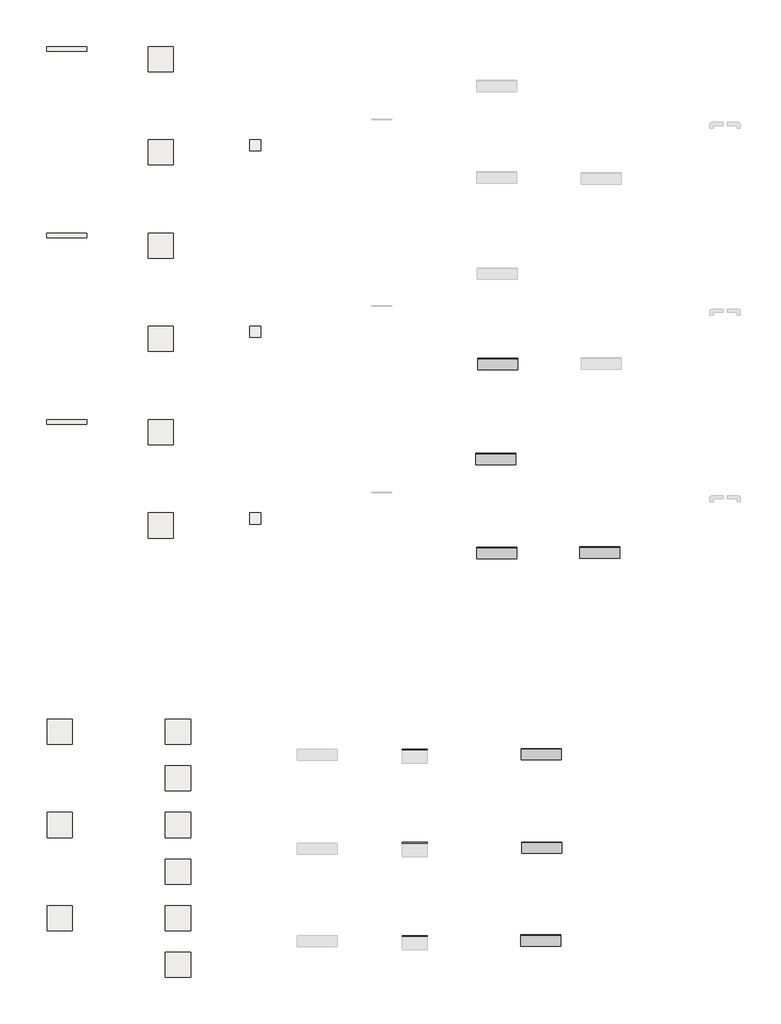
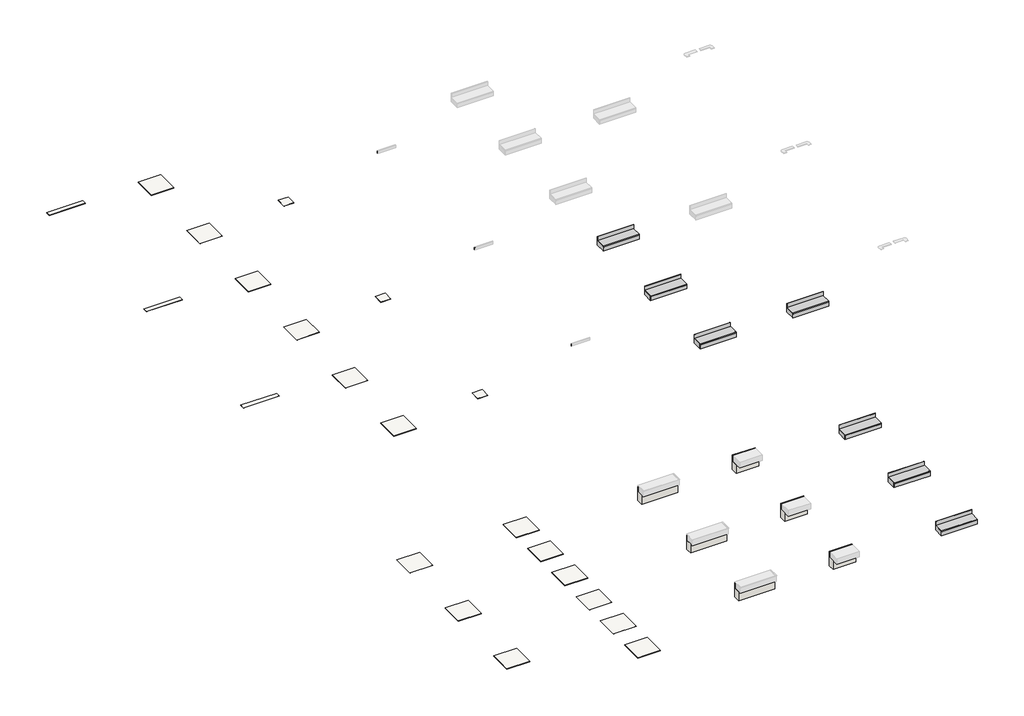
# One storey, part 1 of 2: 21 slabs, 9 walls, 7 stair flights.
"""IFC4 building model written with IfcOpenShell, lengths in millimetres."""

from ifc_helpers import new_model, si_unit, frame, origin, place, context, project, spatial, polyline, outline, extrude, faceted_brep, element, save

model = new_model("IFC4")

# Units and contexts
model_context = context("Model", 3, world=origin())
ifc_project = project(units=[si_unit("LENGTHUNIT", "METRE", prefix="MILLI")], contexts=[model_context])

# Site, building, storey
site = spatial("IfcSite", under=ifc_project)
building = spatial("IfcBuilding", under=site)
storey = spatial("IfcBuildingStorey", under=building, Name="EXAGRES_MILAN Series_Catalogue", Elevation=5000.0)

# Slabs
placement = place(None, origin())
element("IfcSlab", 1, ObjectType="Exagres_Milan_Arena_Base_14,5x120_R9_Rect", at=placement, inside=storey, context=model_context, shape_type="SweptSolid", body=[
    extrude(outline(polyline([(-28.1781102, 784.4826442), (-28.1781102, 637.4826442), (-1230.1781102, 637.4826442), (-1230.1781102, 784.4826442), (-28.1781102, 784.4826442)])), frame((0.0, 0.0, 4989.0), z_axis=(0.0, 0.0, 1.0), x_axis=(1.0, 0.0, 0.0)), (0.0, 0.0, 1.0), 11.0),
])
element("IfcSlab", 2, ObjectType="Exagres_Milan_Gris_Base_14,5x120_R9_Rect", at=placement, inside=storey, context=model_context, shape_type="SweptSolid", body=[
    extrude(outline(polyline([(-28.1781102, -4815.5173558), (-28.1781102, -4962.5173558), (-1230.1781102, -4962.5173558), (-1230.1781102, -4815.5173558), (-28.1781102, -4815.5173558)])), frame((0.0, 0.0, 4989.0), z_axis=(0.0, 0.0, 1.0), x_axis=(1.0, 0.0, 0.0)), (0.0, 0.0, 1.0), 11.0),
])
element("IfcSlab", 3, ObjectType="Exagres_Milan_Marengo_Base_14,5x120_R9_Rect", at=placement, inside=storey, context=model_context, shape_type="SweptSolid", body=[
    extrude(outline(polyline([(-28.1781102, -10415.5173558), (-28.1781102, -10562.5173558), (-1230.1781102, -10562.5173558), (-1230.1781102, -10415.5173558), (-28.1781102, -10415.5173558)])), frame((0.0, 0.0, 4989.0), z_axis=(0.0, 0.0, 1.0), x_axis=(1.0, 0.0, 0.0)), (0.0, 0.0, 1.0), 11.0),
])
element("IfcSlab", 4, ObjectType="Exagres_Milan_Arena_Base_75x75_R9_Rect", at=placement, inside=storey, context=model_context, shape_type="SweptSolid", body=[
    extrude(outline(polyline([(2571.8218898, 784.4826442), (2571.8218898, 32.4826442), (1819.8218898, 32.4826442), (1819.8218898, 784.4826442), (2571.8218898, 784.4826442)])), frame((0.0, 0.0, 4989.0), z_axis=(0.0, 0.0, 1.0), x_axis=(1.0, 0.0, 0.0)), (0.0, 0.0, 1.0), 11.0),
])
element("IfcSlab", 5, ObjectType="Exagres_Milan_Arena_Base_75x75_R12+C_Rect", at=placement, inside=storey, context=model_context, shape_type="SweptSolid", body=[
    extrude(outline(polyline([(2574.8218898, -2015.5173558), (2574.8218898, -2770.5173558), (1819.8218898, -2770.5173558), (1819.8218898, -2015.5173558), (2574.8218898, -2015.5173558)])), frame((0.0, 0.0, 4989.0), z_axis=(0.0, 0.0, 1.0), x_axis=(1.0, 0.0, 0.0)), (0.0, 0.0, 1.0), 11.0),
])
element("IfcSlab", 6, ObjectType="Exagres_Milan_Gris_Base_75x75_R9_Rect", at=placement, inside=storey, context=model_context, shape_type="SweptSolid", body=[
    extrude(outline(polyline([(2571.8218898, -4815.5173558), (2571.8218898, -5567.5173558), (1819.8218898, -5567.5173558), (1819.8218898, -4815.5173558), (2571.8218898, -4815.5173558)])), frame((0.0, 0.0, 4989.0), z_axis=(0.0, 0.0, 1.0), x_axis=(1.0, 0.0, 0.0)), (0.0, 0.0, 1.0), 11.0),
])
element("IfcSlab", 7, ObjectType="Exagres_Milan_Gris_Base_75x75_R12+C_Rect", at=placement, inside=storey, context=model_context, shape_type="SweptSolid", body=[
    extrude(outline(polyline([(2574.8218898, -7615.5173558), (2574.8218898, -8370.5173558), (1819.8218898, -8370.5173558), (1819.8218898, -7615.5173558), (2574.8218898, -7615.5173558)])), frame((0.0, 0.0, 4989.0), z_axis=(0.0, 0.0, 1.0), x_axis=(1.0, 0.0, 0.0)), (0.0, 0.0, 1.0), 11.0),
])
element("IfcSlab", 8, ObjectType="Exagres_Milan_Marengo_Base_75x75_R9_Rect", at=placement, inside=storey, context=model_context, shape_type="SweptSolid", body=[
    extrude(outline(polyline([(2571.8218898, -10415.5173558), (2571.8218898, -11167.5173558), (1819.8218898, -11167.5173558), (1819.8218898, -10415.5173558), (2571.8218898, -10415.5173558)])), frame((0.0, 0.0, 4989.0), z_axis=(0.0, 0.0, 1.0), x_axis=(1.0, 0.0, 0.0)), (0.0, 0.0, 1.0), 11.0),
])
element("IfcSlab", 9, ObjectType="Exagres_Milan_Marengo_Base_75x75_R12+C_Rect", at=placement, inside=storey, context=model_context, shape_type="SweptSolid", body=[
    extrude(outline(polyline([(2574.8218898, -13215.5173558), (2574.8218898, -13970.5173558), (1819.8218898, -13970.5173558), (1819.8218898, -13215.5173558), (2574.8218898, -13215.5173558)])), frame((0.0, 0.0, 4989.0), z_axis=(0.0, 0.0, 1.0), x_axis=(1.0, 0.0, 0.0)), (0.0, 0.0, 1.0), 11.0),
])
element("IfcSlab", 10, ObjectType="Exagres_Milan_Arena_Base_33x33_R12+C", at=placement, inside=storey, context=model_context, shape_type="SweptSolid", body=[
    extrude(outline(polyline([(5204.8218898, -2015.5173558), (5204.8218898, -2350.5173558), (4869.8218898, -2350.5173558), (4869.8218898, -2015.5173558), (5204.8218898, -2015.5173558)])), frame((0.0, 0.0, 4990.0), z_axis=(0.0, 0.0, 1.0), x_axis=(1.0, 0.0, 0.0)), (0.0, 0.0, 1.0), 10.0),
])
element("IfcSlab", 11, ObjectType="Exagres_Milan_Gris_Base_33x33_R12+C", at=placement, inside=storey, context=model_context, shape_type="SweptSolid", body=[
    extrude(outline(polyline([(5204.8218898, -7615.5173558), (5204.8218898, -7950.5173558), (4869.8218898, -7950.5173558), (4869.8218898, -7615.5173558), (5204.8218898, -7615.5173558)])), frame((0.0, 0.0, 4990.0), z_axis=(0.0, 0.0, 1.0), x_axis=(1.0, 0.0, 0.0)), (0.0, 0.0, 1.0), 10.0),
])
element("IfcSlab", 12, ObjectType="Exagres_Milan_Marengo_Base_33x33_R12+C", at=placement, inside=storey, context=model_context, shape_type="SweptSolid", body=[
    extrude(outline(polyline([(5204.8218898, -13215.5173558), (5204.8218898, -13550.5173558), (4869.8218898, -13550.5173558), (4869.8218898, -13215.5173558), (5204.8218898, -13215.5173558)])), frame((0.0, 0.0, 4990.0), z_axis=(0.0, 0.0, 1.0), x_axis=(1.0, 0.0, 0.0)), (0.0, 0.0, 1.0), 10.0),
])
element("IfcSlab", 13, ObjectType="Exagres_Milan_Arena_Pool_75x75_R9_Rect", at=placement, inside=storey, context=model_context, shape_type="SweptSolid", body=[
    extrude(outline(polyline([(-457.155725, -19408.4497575), (-457.155725, -20163.4497575), (-1212.155725, -20163.4497575), (-1212.155725, -19408.4497575), (-457.155725, -19408.4497575)])), frame((0.0, 0.0, 4989.0), z_axis=(0.0, 0.0, 1.0), x_axis=(1.0, 0.0, 0.0)), (0.0, 0.0, 1.0), 11.0),
])
element("IfcSlab", 14, ObjectType="Exagres_Milan_Gris_Pool_75x75_R9_Rect", at=placement, inside=storey, context=model_context, shape_type="SweptSolid", body=[
    extrude(outline(polyline([(-457.155725, -22208.4497575), (-457.155725, -22963.4497575), (-1212.155725, -22963.4497575), (-1212.155725, -22208.4497575), (-457.155725, -22208.4497575)])), frame((0.0, 0.0, 4989.0), z_axis=(0.0, 0.0, 1.0), x_axis=(1.0, 0.0, 0.0)), (0.0, 0.0, 1.0), 11.0),
])
element("IfcSlab", 15, ObjectType="Exagres_Milan_Marengo_Pool_75x75_R9_Rect", at=placement, inside=storey, context=model_context, shape_type="SweptSolid", body=[
    extrude(outline(polyline([(-457.155725, -25008.4497575), (-457.155725, -25763.4497575), (-1212.155725, -25763.4497575), (-1212.155725, -25008.4497575), (-457.155725, -25008.4497575)])), frame((0.0, 0.0, 4989.0), z_axis=(0.0, 0.0, 1.0), x_axis=(1.0, 0.0, 0.0)), (0.0, 0.0, 1.0), 11.0),
])
element("IfcSlab", 16, ObjectType="Exagres_Milan_Arena_Pool_75x75_R12+C_Rect", at=placement, inside=storey, context=model_context, shape_type="SweptSolid", body=[
    extrude(outline(polyline([(3092.844275, -20808.4497575), (3092.844275, -21563.4497575), (2337.844275, -21563.4497575), (2337.844275, -20808.4497575), (3092.844275, -20808.4497575)])), frame((0.0, 0.0, 4989.0), z_axis=(0.0, 0.0, 1.0), x_axis=(1.0, 0.0, 0.0)), (0.0, 0.0, 1.0), 11.0),
])
element("IfcSlab", 17, ObjectType="Exagres_Milan_Gris_Pool_75x75_R12+C_Rect", at=placement, inside=storey, context=model_context, shape_type="SweptSolid", body=[
    extrude(outline(polyline([(3092.844275, -23608.4497575), (3092.844275, -24363.4497575), (2337.844275, -24363.4497575), (2337.844275, -23608.4497575), (3092.844275, -23608.4497575)])), frame((0.0, 0.0, 4989.0), z_axis=(0.0, 0.0, 1.0), x_axis=(1.0, 0.0, 0.0)), (0.0, 0.0, 1.0), 11.0),
])
element("IfcSlab", 18, ObjectType="Exagres_Milan_Marengo_Pool_75x75_R12+C_Rect", at=placement, inside=storey, context=model_context, shape_type="SweptSolid", body=[
    extrude(outline(polyline([(3092.844275, -26408.4497575), (3092.844275, -27163.4497575), (2337.844275, -27163.4497575), (2337.844275, -26408.4497575), (3092.844275, -26408.4497575)])), frame((0.0, 0.0, 4989.0), z_axis=(0.0, 0.0, 1.0), x_axis=(1.0, 0.0, 0.0)), (0.0, 0.0, 1.0), 11.0),
])
element("IfcSlab", 19, ObjectType="Exagres_Milan_Arena_Pool_75x75_R9_Rect", at=placement, inside=storey, context=model_context, shape_type="SweptSolid", body=[
    extrude(outline(polyline([(3092.844275, -19408.4497575), (3092.844275, -20163.4497575), (2337.844275, -20163.4497575), (2337.844275, -19408.4497575), (3092.844275, -19408.4497575)])), frame((0.0, 0.0, 4989.0), z_axis=(0.0, 0.0, 1.0), x_axis=(1.0, 0.0, 0.0)), (0.0, 0.0, 1.0), 11.0),
])
element("IfcSlab", 20, ObjectType="Exagres_Milan_Gris_Pool_75x75_R9_Rect", at=placement, inside=storey, context=model_context, shape_type="SweptSolid", body=[
    extrude(outline(polyline([(3092.844275, -22208.4497575), (3092.844275, -22963.4497575), (2337.844275, -22963.4497575), (2337.844275, -22208.4497575), (3092.844275, -22208.4497575)])), frame((0.0, 0.0, 4989.0), z_axis=(0.0, 0.0, 1.0), x_axis=(1.0, 0.0, 0.0)), (0.0, 0.0, 1.0), 11.0),
])
element("IfcSlab", 21, ObjectType="Exagres_Milan_Marengo_Pool_75x75_R9_Rect", at=placement, inside=storey, context=model_context, shape_type="SweptSolid", body=[
    extrude(outline(polyline([(3092.844275, -25008.4497575), (3092.844275, -25763.4497575), (2337.844275, -25763.4497575), (2337.844275, -25008.4497575), (3092.844275, -25008.4497575)])), frame((0.0, 0.0, 4989.0), z_axis=(0.0, 0.0, 1.0), x_axis=(1.0, 0.0, 0.0)), (0.0, 0.0, 1.0), 11.0),
])

# Stair flights
element("IfcStairFlight", 22, ObjectType="EXAGRES_Straight - Milán Gris R11+C", at=placement, inside=storey, context=model_context, shape_type="SweptSolid", body=[
    extrude(outline(polyline([(11721.0701188, -8908.3577504), (11721.0701188, -8578.3577504), (12921.0701188, -8578.3577504), (12921.0701188, -8908.3577504), (11721.0701188, -8908.3577504)])), frame((0.0, 0.0, 5000.0), z_axis=(0.0, 0.0, 1.0), x_axis=(1.0, 0.0, 0.0)), (0.0, 0.0, 1.0), 151.6666667),
    extrude(outline(polyline([(-8578.3577504, 5151.6666667), (-8903.4482015, 5151.6666667), (-8903.4482015, 5154.6666667), (-8908.3577504, 5154.6666667), (-8908.3577504, 5147.6666667), (-8909.3577504, 5147.6666667), (-8909.3577504, 5141.6666667), (-8908.3577504, 5141.6666667), (-8908.3577504, 5133.6666667), (-8921.3577504, 5133.6666667), (-8921.3577504, 5166.6666667), (-8578.3577504, 5166.6666667), (-8578.3577504, 5151.6666667)])), frame((11721.0701188, 0.0, 0.0), z_axis=(1.0, 0.0, 0.0), x_axis=(0.0, 1.0, 0.0)), (0.0, 0.0, 1.0), 1200.0),
    extrude(outline(polyline([(12921.0701188, -8908.3577504), (12921.0701188, -8921.3577504), (11721.0701188, -8921.3577504), (11721.0701188, -8908.3577504), (12921.0701188, -8908.3577504)])), frame((0.0, 0.0, 5000.0), z_axis=(0.0, 0.0, 1.0), x_axis=(1.0, 0.0, 0.0)), (0.0, 0.0, 1.0), 133.6666667),
    extrude(outline(polyline([(12921.0701188, -8578.3577504), (12921.0701188, -8591.3577504), (11721.0701188, -8591.3577504), (11721.0701188, -8578.3577504), (12921.0701188, -8578.3577504)])), frame((0.0, 0.0, 5166.6666667), z_axis=(0.0, 0.0, 1.0), x_axis=(1.0, 0.0, 0.0)), (0.0, 0.0, 1.0), 133.6666667),
])
element("IfcStairFlight", 23, ObjectType="EXAGRES_Straight - Milán Marengo R11+C", at=placement, inside=storey, context=model_context, shape_type="SweptSolid", body=[
    extrude(outline(polyline([(11680.537934, -14574.5839781), (11680.537934, -14244.5839781), (12880.537934, -14244.5839781), (12880.537934, -14574.5839781), (11680.537934, -14574.5839781)])), frame((0.0, 0.0, 5000.0), z_axis=(0.0, 0.0, 1.0), x_axis=(1.0, 0.0, 0.0)), (0.0, 0.0, 1.0), 151.6666667),
    extrude(outline(polyline([(-14244.5839781, 5151.6666667), (-14569.6744292, 5151.6666667), (-14569.6744292, 5154.6666667), (-14574.5839781, 5154.6666667), (-14574.5839781, 5147.6666667), (-14575.5839781, 5147.6666667), (-14575.5839781, 5141.6666667), (-14574.5839781, 5141.6666667), (-14574.5839781, 5133.6666667), (-14587.5839781, 5133.6666667), (-14587.5839781, 5166.6666667), (-14244.5839781, 5166.6666667), (-14244.5839781, 5151.6666667)])), frame((11680.537934, 0.0, 0.0), z_axis=(1.0, 0.0, 0.0), x_axis=(0.0, 1.0, 0.0)), (0.0, 0.0, 1.0), 1200.0),
    extrude(outline(polyline([(12880.537934, -14574.5839781), (12880.537934, -14587.5839781), (11680.537934, -14587.5839781), (11680.537934, -14574.5839781), (12880.537934, -14574.5839781)])), frame((0.0, 0.0, 5000.0), z_axis=(0.0, 0.0, 1.0), x_axis=(1.0, 0.0, 0.0)), (0.0, 0.0, 1.0), 133.6666667),
    extrude(outline(polyline([(12880.537934, -14244.5839781), (12880.537934, -14257.5839781), (11680.537934, -14257.5839781), (11680.537934, -14244.5839781), (12880.537934, -14244.5839781)])), frame((0.0, 0.0, 5166.6666667), z_axis=(0.0, 0.0, 1.0), x_axis=(1.0, 0.0, 0.0)), (0.0, 0.0, 1.0), 133.6666667),
])
element("IfcStairFlight", 24, ObjectType="EXAGRES_Straight - Milán Marengo R9", at=placement, inside=storey, context=model_context, shape_type="SweptSolid", body=[
    extrude(outline(polyline([(11653.0707994, -11754.5173558), (11653.0707994, -11424.5173558), (12853.0707994, -11424.5173558), (12853.0707994, -11754.5173558), (11653.0707994, -11754.5173558)])), frame((0.0, 0.0, 5000.0), z_axis=(0.0, 0.0, 1.0), x_axis=(1.0, 0.0, 0.0)), (0.0, 0.0, 1.0), 151.6666667),
    extrude(outline(polyline([(-11424.5173558, 5151.6666667), (-11749.6078069, 5151.6666667), (-11749.6078069, 5154.6666667), (-11754.5173558, 5154.6666667), (-11754.5173558, 5147.6666667), (-11755.5173558, 5147.6666667), (-11755.5173558, 5141.6666667), (-11754.5173558, 5141.6666667), (-11754.5173558, 5133.6666667), (-11767.5173558, 5133.6666667), (-11767.5173558, 5166.6666667), (-11424.5173558, 5166.6666667), (-11424.5173558, 5151.6666667)])), frame((11653.0707994, 0.0, 0.0), z_axis=(1.0, 0.0, 0.0), x_axis=(0.0, 1.0, 0.0)), (0.0, 0.0, 1.0), 1200.0),
    extrude(outline(polyline([(12853.0707994, -11754.5173558), (12853.0707994, -11767.5173558), (11653.0707994, -11767.5173558), (11653.0707994, -11754.5173558), (12853.0707994, -11754.5173558)])), frame((0.0, 0.0, 5000.0), z_axis=(0.0, 0.0, 1.0), x_axis=(1.0, 0.0, 0.0)), (0.0, 0.0, 1.0), 133.6666667),
    extrude(outline(polyline([(12853.0707994, -11424.5173558), (12853.0707994, -11437.5173558), (11653.0707994, -11437.5173558), (11653.0707994, -11424.5173558), (12853.0707994, -11424.5173558)])), frame((0.0, 0.0, 5166.6666667), z_axis=(0.0, 0.0, 1.0), x_axis=(1.0, 0.0, 0.0)), (0.0, 0.0, 1.0), 133.6666667),
])
element("IfcStairFlight", 25, ObjectType="EXAGRES_Straight_33x33 - Milán Marengo R11+C", at=placement, inside=storey, context=model_context, shape_type="SweptSolid", body=[
    extrude(outline(polyline([(14777.6650181, -14564.7282448), (14777.6650181, -14234.7282448), (15977.6650181, -14234.7282448), (15977.6650181, -14564.7282448), (14777.6650181, -14564.7282448)])), frame((0.0, 0.0, 5000.0), z_axis=(0.0, 0.0, 1.0), x_axis=(1.0, 0.0, 0.0)), (0.0, 0.0, 1.0), 151.6666667),
    extrude(outline(polyline([(-14234.7282448, 5151.6666667), (-14559.8186959, 5151.6666667), (-14559.8186959, 5154.6666667), (-14564.7282448, 5154.6666667), (-14564.7282448, 5147.6666667), (-14565.7282448, 5147.6666667), (-14565.7282448, 5141.6666667), (-14564.7282448, 5141.6666667), (-14564.7282448, 5133.6666667), (-14577.7282448, 5133.6666667), (-14577.7282448, 5166.6666667), (-14234.7282448, 5166.6666667), (-14234.7282448, 5151.6666667)])), frame((14777.6650181, 0.0, 0.0), z_axis=(1.0, 0.0, 0.0), x_axis=(0.0, 1.0, 0.0)), (0.0, 0.0, 1.0), 1200.0),
    extrude(outline(polyline([(15977.6650181, -14564.7282448), (15977.6650181, -14577.7282448), (14777.6650181, -14577.7282448), (14777.6650181, -14564.7282448), (15977.6650181, -14564.7282448)])), frame((0.0, 0.0, 5000.0), z_axis=(0.0, 0.0, 1.0), x_axis=(1.0, 0.0, 0.0)), (0.0, 0.0, 1.0), 133.6666667),
    extrude(outline(polyline([(15977.6650181, -14234.7282448), (15977.6650181, -14247.7282448), (14777.6650181, -14247.7282448), (14777.6650181, -14234.7282448), (15977.6650181, -14234.7282448)])), frame((0.0, 0.0, 5166.6666667), z_axis=(0.0, 0.0, 1.0), x_axis=(1.0, 0.0, 0.0)), (0.0, 0.0, 1.0), 133.6666667),
])
element("IfcStairFlight", 26, ObjectType="EXAGRES_Straight - Milán Arena R11+C", at=placement, inside=storey, context=model_context, shape_type="SweptSolid", body=[
    extrude(outline(polyline([(13018.7377741, -20621.625771), (13018.7377741, -20291.625771), (14218.7377741, -20291.625771), (14218.7377741, -20621.625771), (13018.7377741, -20621.625771)])), frame((0.0, 0.0, 5000.0), z_axis=(0.0, 0.0, 1.0), x_axis=(1.0, 0.0, 0.0)), (0.0, 0.0, 1.0), 153.3168317),
    extrude(outline(polyline([(-20291.625771, 5153.3168317), (-20616.7162221, 5153.3168317), (-20616.7162221, 5156.3168317), (-20621.625771, 5156.3168317), (-20621.625771, 5149.3168317), (-20622.625771, 5149.3168317), (-20622.625771, 5143.3168317), (-20621.625771, 5143.3168317), (-20621.625771, 5135.3168317), (-20634.625771, 5135.3168317), (-20634.625771, 5168.3168317), (-20291.625771, 5168.3168317), (-20291.625771, 5153.3168317)])), frame((13018.7377741, 0.0, 0.0), z_axis=(1.0, 0.0, 0.0), x_axis=(0.0, 1.0, 0.0)), (0.0, 0.0, 1.0), 1200.0),
    extrude(outline(polyline([(14218.7377741, -20621.625771), (14218.7377741, -20634.625771), (13018.7377741, -20634.625771), (13018.7377741, -20621.625771), (14218.7377741, -20621.625771)])), frame((0.0, 0.0, 5000.0), z_axis=(0.0, 0.0, 1.0), x_axis=(1.0, 0.0, 0.0)), (0.0, 0.0, 1.0), 135.3168317),
    extrude(outline(polyline([(14218.7377741, -20291.625771), (14218.7377741, -20304.625771), (13018.7377741, -20304.625771), (13018.7377741, -20291.625771), (14218.7377741, -20291.625771)])), frame((0.0, 0.0, 5168.3168317), z_axis=(0.0, 0.0, 1.0), x_axis=(1.0, 0.0, 0.0)), (0.0, 0.0, 1.0), 135.3168317),
])
element("IfcStairFlight", 27, ObjectType="EXAGRES_Straight - Milán Gris R11+C", at=placement, inside=storey, context=model_context, shape_type="SweptSolid", body=[
    extrude(outline(polyline([(13030.5286038, -23428.8241111), (13030.5286038, -23098.8241111), (14230.5286038, -23098.8241111), (14230.5286038, -23428.8241111), (13030.5286038, -23428.8241111)])), frame((0.0, 0.0, 5000.0), z_axis=(0.0, 0.0, 1.0), x_axis=(1.0, 0.0, 0.0)), (0.0, 0.0, 1.0), 153.3168317),
    extrude(outline(polyline([(-23098.8241111, 5153.3168317), (-23423.9145622, 5153.3168317), (-23423.9145622, 5156.3168317), (-23428.8241111, 5156.3168317), (-23428.8241111, 5149.3168317), (-23429.8241111, 5149.3168317), (-23429.8241111, 5143.3168317), (-23428.8241111, 5143.3168317), (-23428.8241111, 5135.3168317), (-23441.8241111, 5135.3168317), (-23441.8241111, 5168.3168317), (-23098.8241111, 5168.3168317), (-23098.8241111, 5153.3168317)])), frame((13030.5286038, 0.0, 0.0), z_axis=(1.0, 0.0, 0.0), x_axis=(0.0, 1.0, 0.0)), (0.0, 0.0, 1.0), 1200.0),
    extrude(outline(polyline([(14230.5286038, -23428.8241111), (14230.5286038, -23441.8241111), (13030.5286038, -23441.8241111), (13030.5286038, -23428.8241111), (14230.5286038, -23428.8241111)])), frame((0.0, 0.0, 5000.0), z_axis=(0.0, 0.0, 1.0), x_axis=(1.0, 0.0, 0.0)), (0.0, 0.0, 1.0), 135.3168317),
    extrude(outline(polyline([(14230.5286038, -23098.8241111), (14230.5286038, -23111.8241111), (13030.5286038, -23111.8241111), (13030.5286038, -23098.8241111), (14230.5286038, -23098.8241111)])), frame((0.0, 0.0, 5168.3168317), z_axis=(0.0, 0.0, 1.0), x_axis=(1.0, 0.0, 0.0)), (0.0, 0.0, 1.0), 135.3168317),
])
element("IfcStairFlight", 28, ObjectType="EXAGRES_Straight - Milán Marengo R11+C", at=placement, inside=storey, context=model_context, shape_type="SweptSolid", body=[
    extrude(outline(polyline([(13000.8480722, -26216.1038833), (13000.8480722, -25886.1038833), (14200.8480722, -25886.1038833), (14200.8480722, -26216.1038833), (13000.8480722, -26216.1038833)])), frame((0.0, 0.0, 5000.0), z_axis=(0.0, 0.0, 1.0), x_axis=(1.0, 0.0, 0.0)), (0.0, 0.0, 1.0), 153.3168317),
    extrude(outline(polyline([(-25886.1038833, 5153.3168317), (-26211.1943344, 5153.3168317), (-26211.1943344, 5156.3168317), (-26216.1038833, 5156.3168317), (-26216.1038833, 5149.3168317), (-26217.1038833, 5149.3168317), (-26217.1038833, 5143.3168317), (-26216.1038833, 5143.3168317), (-26216.1038833, 5135.3168317), (-26229.1038833, 5135.3168317), (-26229.1038833, 5168.3168317), (-25886.1038833, 5168.3168317), (-25886.1038833, 5153.3168317)])), frame((13000.8480722, 0.0, 0.0), z_axis=(1.0, 0.0, 0.0), x_axis=(0.0, 1.0, 0.0)), (0.0, 0.0, 1.0), 1200.0),
    extrude(outline(polyline([(14200.8480722, -26216.1038833), (14200.8480722, -26229.1038833), (13000.8480722, -26229.1038833), (13000.8480722, -26216.1038833), (14200.8480722, -26216.1038833)])), frame((0.0, 0.0, 5000.0), z_axis=(0.0, 0.0, 1.0), x_axis=(1.0, 0.0, 0.0)), (0.0, 0.0, 1.0), 135.3168317),
    extrude(outline(polyline([(14200.8480722, -25886.1038833), (14200.8480722, -25899.1038833), (13000.8480722, -25899.1038833), (13000.8480722, -25886.1038833), (14200.8480722, -25886.1038833)])), frame((0.0, 0.0, 5168.3168317), z_axis=(0.0, 0.0, 1.0), x_axis=(1.0, 0.0, 0.0)), (0.0, 0.0, 1.0), 135.3168317),
])

# Walls
element("IfcWall", 29, ObjectType="Muro básico:muro", at=placement, inside=storey, context=model_context, shape_type="SweptSolid", body=[
    extrude(outline(polyline([(9132.990681, -1402.2299086), (8532.990681, -1402.2299086), (8532.990681, -1401.2299086), (9132.990681, -1401.2299086), (9132.990681, -1402.2299086)])), frame((0.0, 0.0, 5000.0), z_axis=(0.0, 0.0, 1.0), x_axis=(1.0, 0.0, 0.0)), (0.0, 0.0, 1.0), 75.0),
])
element("IfcWall", 30, ObjectType="Muro básico:muro", at=placement, inside=storey, context=model_context, shape_type="SweptSolid", body=[
    extrude(outline(polyline([(9132.990681, -7002.2299086), (8532.990681, -7002.2299086), (8532.990681, -7001.2299086), (9132.990681, -7001.2299086), (9132.990681, -7002.2299086)])), frame((0.0, 0.0, 5000.0), z_axis=(0.0, 0.0, 1.0), x_axis=(1.0, 0.0, 0.0)), (0.0, 0.0, 1.0), 75.0),
])
element("IfcWall", 31, ObjectType="Muro básico:muro", at=placement, inside=storey, context=model_context, shape_type="SweptSolid", body=[
    extrude(outline(polyline([(9132.990681, -12602.2299086), (8532.990681, -12602.2299086), (8532.990681, -12601.2299086), (9132.990681, -12601.2299086), (9132.990681, -12602.2299086)])), frame((0.0, 0.0, 5000.0), z_axis=(0.0, 0.0, 1.0), x_axis=(1.0, 0.0, 0.0)), (0.0, 0.0, 1.0), 75.0),
])
element("IfcWall", 32, ObjectType="Exagres_Skimmer pool - Straight Step 33x120 - Milan Arena", at=placement, inside=storey, context=model_context, shape_type="Brep", body=[
    faceted_brep([(6298.0543811, -20533.4497575, 5000.0), (7500.0543811, -20533.4497575, 5000.0), (7500.0543811, -20533.4497575, 5318.74), (6298.0543811, -20533.4497575, 5318.74), (7500.0543811, -20308.4497575, 5000.0), (6298.0543811, -20308.4497575, 5000.0), (6298.0543811, -20308.4497575, 5500.0), (7500.0543811, -20308.4497575, 5500.0), (7500.0543811, -20321.4497575, 5500.0), (7500.0543811, -20323.4497575, 5500.0), (7500.0543811, -20323.4497575, 5318.74), (6298.0543811, -20321.4497575, 5500.0), (6298.0543811, -20323.4497575, 5500.0), (6298.0543811, -20323.4497575, 5318.74)], [[[0, 1, 2, 3]], [[4, 5, 6, 7]], [[1, 0, 5, 4]], [[4, 7, 8, 9, 10, 2, 1]], [[7, 6, 11, 12, 9, 8]], [[6, 5, 0, 3, 13, 12, 11]], [[10, 13, 3, 2]], [[13, 10, 9, 12]]]),
])
element("IfcWall", 33, ObjectType="Exagres_Skimmer pool - Straight Step 33x120 - Milan Gris", at=placement, inside=storey, context=model_context, shape_type="Brep", body=[
    faceted_brep([(6298.0543811, -23358.4497575, 5000.0), (7500.0543811, -23358.4497575, 5000.0), (7500.0543811, -23358.4497575, 5318.74), (6298.0543811, -23358.4497575, 5318.74), (7500.0543811, -23133.4497575, 5000.0), (6298.0543811, -23133.4497575, 5000.0), (6298.0543811, -23133.4497575, 5500.0), (7500.0543811, -23133.4497575, 5500.0), (7500.0543811, -23146.4497575, 5500.0), (7500.0543811, -23148.4497575, 5500.0), (7500.0543811, -23148.4497575, 5318.74), (6298.0543811, -23146.4497575, 5500.0), (6298.0543811, -23148.4497575, 5500.0), (6298.0543811, -23148.4497575, 5318.74)], [[[0, 1, 2, 3]], [[4, 5, 6, 7]], [[1, 0, 5, 4]], [[4, 7, 8, 9, 10, 2, 1]], [[7, 6, 11, 12, 9, 8]], [[6, 5, 0, 3, 13, 12, 11]], [[10, 13, 3, 2]], [[13, 10, 9, 12]]]),
])
element("IfcWall", 34, ObjectType="Exagres_Skimmer pool - Straight Step 33x120 - Milan Marengo", at=placement, inside=storey, context=model_context, shape_type="Brep", body=[
    faceted_brep([(6298.0543811, -26133.4497575, 5000.0), (7500.0543811, -26133.4497575, 5000.0), (7500.0543811, -26133.4497575, 5318.74), (6298.0543811, -26133.4497575, 5318.74), (7500.0543811, -25908.4497575, 5000.0), (6298.0543811, -25908.4497575, 5000.0), (6298.0543811, -25908.4497575, 5500.0), (7500.0543811, -25908.4497575, 5500.0), (7500.0543811, -25921.4497575, 5500.0), (7500.0543811, -25923.4497575, 5500.0), (7500.0543811, -25923.4497575, 5318.74), (6298.0543811, -25921.4497575, 5500.0), (6298.0543811, -25923.4497575, 5500.0), (6298.0543811, -25923.4497575, 5318.74)], [[[0, 1, 2, 3]], [[4, 5, 6, 7]], [[1, 0, 5, 4]], [[4, 7, 8, 9, 10, 2, 1]], [[7, 6, 11, 12, 9, 8]], [[6, 5, 0, 3, 13, 12, 11]], [[10, 13, 3, 2]], [[13, 10, 9, 12]]]),
])
element("IfcWall", 35, ObjectType="Exagres_Skimmer pool - Edge 45x75 - Milan Arena", at=placement, inside=storey, context=model_context, shape_type="Brep", body=[
    faceted_brep([(9448.0543811, -20533.4497575, 5000.0), (10198.0543811, -20533.4497575, 5000.0), (10198.0543811, -20533.4497575, 5300.0), (9448.0543811, -20533.4497575, 5300.0), (10198.0543811, -20308.4497575, 5000.0), (9448.0543811, -20308.4497575, 5000.0), (9448.0543811, -20308.4497575, 5500.0), (10198.0543811, -20308.4497575, 5500.0), (10198.0543811, -20320.6664211, 5500.0), (10198.0543811, -20325.8528519, 5500.0), (10198.0543811, -20333.4497575, 5500.0), (10198.0543811, -20333.4497575, 5300.0), (9448.0543811, -20320.6664211, 5500.0), (9448.0543811, -20325.8528519, 5500.0), (9448.0543811, -20333.4497575, 5500.0), (9448.0543811, -20333.4497575, 5300.0)], [[[0, 1, 2, 3]], [[4, 5, 6, 7]], [[1, 0, 5, 4]], [[4, 7, 8, 9, 10, 11, 2, 1]], [[7, 6, 12, 13, 14, 10, 9, 8]], [[6, 5, 0, 3, 15, 14, 13, 12]], [[11, 15, 3, 2]], [[15, 11, 10, 14]]]),
])
element("IfcWall", 36, ObjectType="Exagres_Skimmer pool - Edge 45x75 - Milan Gris", at=placement, inside=storey, context=model_context, shape_type="Brep", body=[
    faceted_brep([(9448.0543811, -23333.4497575, 5000.0), (10198.0543811, -23333.4497575, 5000.0), (10198.0543811, -23333.4497575, 5300.0), (9448.0543811, -23333.4497575, 5300.0), (10198.0543811, -23108.4497575, 5000.0), (9448.0543811, -23108.4497575, 5000.0), (9448.0543811, -23108.4497575, 5500.0), (10198.0543811, -23108.4497575, 5500.0), (10198.0543811, -23120.6664211, 5500.0), (10198.0543811, -23125.8528519, 5500.0), (10198.0543811, -23133.4497575, 5500.0), (10198.0543811, -23133.4497575, 5300.0), (9448.0543811, -23120.6664211, 5500.0), (9448.0543811, -23125.8528519, 5500.0), (9448.0543811, -23133.4497575, 5500.0), (9448.0543811, -23133.4497575, 5300.0)], [[[0, 1, 2, 3]], [[4, 5, 6, 7]], [[1, 0, 5, 4]], [[4, 7, 8, 9, 10, 11, 2, 1]], [[7, 6, 12, 13, 14, 10, 9, 8]], [[6, 5, 0, 3, 15, 14, 13, 12]], [[11, 15, 3, 2]], [[15, 11, 10, 14]]]),
])
element("IfcWall", 37, ObjectType="Exagres_Skimmer pool - Edge 45x75 - Milan Marengo", at=placement, inside=storey, context=model_context, shape_type="Brep", body=[
    faceted_brep([(9448.0543811, -26133.4497575, 5000.0), (10198.0543811, -26133.4497575, 5000.0), (10198.0543811, -26133.4497575, 5300.0), (9448.0543811, -26133.4497575, 5300.0), (10198.0543811, -25908.4497575, 5000.0), (9448.0543811, -25908.4497575, 5000.0), (9448.0543811, -25908.4497575, 5500.0), (10198.0543811, -25908.4497575, 5500.0), (10198.0543811, -25920.6664211, 5500.0), (10198.0543811, -25925.8528519, 5500.0), (10198.0543811, -25933.4497575, 5500.0), (10198.0543811, -25933.4497575, 5300.0), (9448.0543811, -25920.6664211, 5500.0), (9448.0543811, -25925.8528519, 5500.0), (9448.0543811, -25933.4497575, 5500.0), (9448.0543811, -25933.4497575, 5300.0)], [[[0, 1, 2, 3]], [[4, 5, 6, 7]], [[1, 0, 5, 4]], [[4, 7, 8, 9, 10, 11, 2, 1]], [[7, 6, 12, 13, 14, 10, 9, 8]], [[6, 5, 0, 3, 15, 14, 13, 12]], [[11, 15, 3, 2]], [[15, 11, 10, 14]]]),
])

save(model, "model.ifc")
